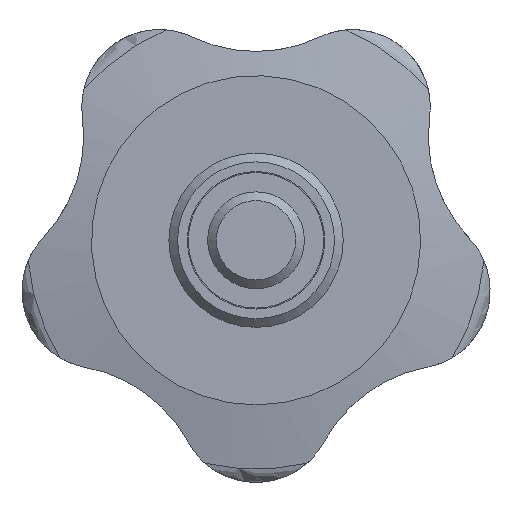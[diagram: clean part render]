
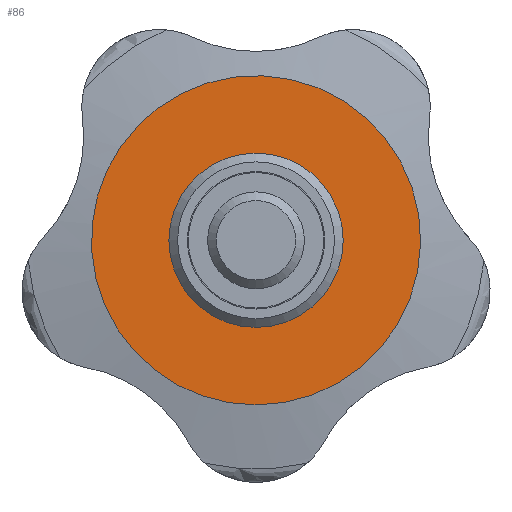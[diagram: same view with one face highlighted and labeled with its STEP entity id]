
A CAD part, front view. The second image highlights one B-rep face of the part: STEP entity #86.
In plain terms, the highlighted planar face has unit normal (0, -1, 0).
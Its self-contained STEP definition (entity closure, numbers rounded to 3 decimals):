
#86 = ADVANCED_FACE( '', ( #147, #148 ), #149, .F. );
#147 = FACE_BOUND( '', #249, .T. );
#148 = FACE_OUTER_BOUND( '', #250, .T. );
#149 = PLANE( '', #251 );
#249 = EDGE_LOOP( '', ( #431 ) );
#250 = EDGE_LOOP( '', ( #432 ) );
#251 = AXIS2_PLACEMENT_3D( '', #433, #434, #435 );
#431 = ORIENTED_EDGE( '', *, *, #728, .F. );
#432 = ORIENTED_EDGE( '', *, *, #729, .T. );
#433 = CARTESIAN_POINT( '', ( 17., 17., 0. ) );
#434 = DIRECTION( '', ( 0., 1., 0. ) );
#435 = DIRECTION( '', ( 0., 0., 1. ) );
#728 = EDGE_CURVE( '', #867, #867, #868, .T. );
#729 = EDGE_CURVE( '', #869, #869, #870, .T. );
#867 = VERTEX_POINT( '', #1343 );
#868 = CIRCLE( '', #1344, 9. );
#869 = VERTEX_POINT( '', #1345 );
#870 = CIRCLE( '', #1346, 17. );
#1343 = CARTESIAN_POINT( '', ( 0., 17., -9. ) );
#1344 = AXIS2_PLACEMENT_3D( '', #1926, #1927, #1928 );
#1345 = CARTESIAN_POINT( '', ( 0., 17., -17. ) );
#1346 = AXIS2_PLACEMENT_3D( '', #1929, #1930, #1931 );
#1926 = CARTESIAN_POINT( '', ( 0., 17., 0. ) );
#1927 = DIRECTION( '', ( 0., -1., 0. ) );
#1928 = DIRECTION( '', ( 0., 0., -1. ) );
#1929 = CARTESIAN_POINT( '', ( 0., 17., 0. ) );
#1930 = DIRECTION( '', ( 0., -1., 0. ) );
#1931 = DIRECTION( '', ( 0., 0., -1. ) );
